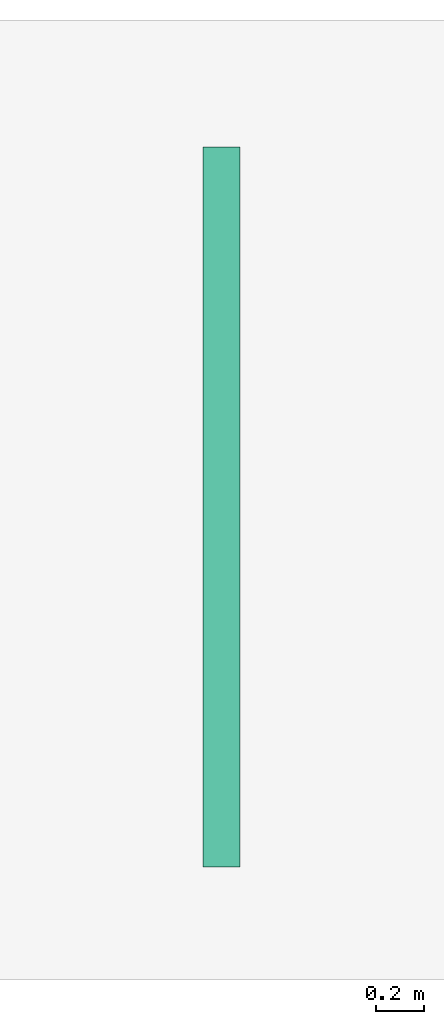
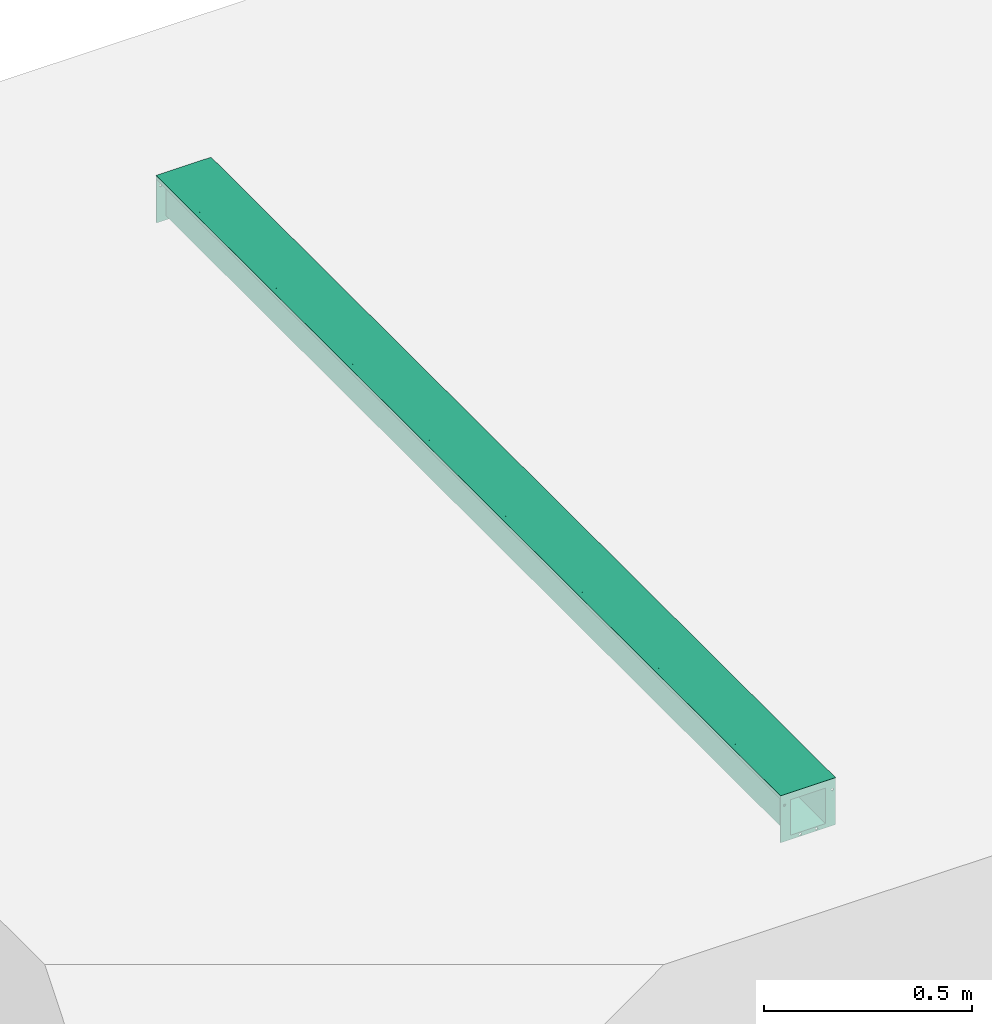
# One storey, part 2 of 2: 1 flow terminal.
"""IFC2X3 building model written with IfcOpenShell, lengths in millimetres."""

from ifc_helpers import new_model, entity, si_unit, converted_unit, direction, frame, frame_2d, origin, origin_2d_with_axis, place, context, subcontext, project, spatial, polyline, circle_curve, parameter, trimmed, segment, composite_curve, rectangle, outline, extrude, source, transform, mapped, material, material_list, element, save


model = new_model("IFC2X3")

# Units and contexts
model_context = context("Model", 3, precision=1e-06, world=origin(), true_north=direction((2.0, 6.12303176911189e-17, 1.0)))
context_of_model = context(None, 3, precision=1e-06, world=origin(), true_north=direction((2.0, 6.12303176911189e-17, 1.0)))
body_context = subcontext(model_context, "Body", "Model", "MODEL_VIEW")
ifc_project = project(units=[si_unit("LENGTHUNIT", "METRE", prefix="MILLI"), si_unit("AREAUNIT", "SQUARE_METRE", prefix="MILLI"), si_unit("VOLUMEUNIT", "CUBIC_METRE", prefix="MILLI"), converted_unit("PLANEANGLEUNIT", "DEGREE", entity("IfcRatioMeasure", 0.0174532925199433), si_unit("PLANEANGLEUNIT", "RADIAN"), dimensions=[0, 0, 0, 0, 0, 0, 0]), si_unit("TIMEUNIT", "SECOND")], contexts=[model_context, context_of_model])

# Site, building, storey
site_placement = place(None, origin())
site = spatial("IfcSite", under=ifc_project, at=site_placement, Name="Default", CompositionType="ELEMENT")
building_placement = place(site_placement, origin())
building = spatial("IfcBuilding", under=site, at=building_placement, CompositionType="ELEMENT")
storey_placement = place(building_placement, origin())
storey = spatial("IfcBuildingStorey", under=building, at=storey_placement, Name="Level 1", CompositionType="ELEMENT", Elevation=0.0)

# Flow terminal
ifc_material_1 = material(Name="Stainless Steel AISI 304")
ifc_material_2 = material(Name="Polystyrene, High Impact (F)")
ifc_material_list = material_list([ifc_material_1, ifc_material_2])
shared_shape = source(origin(), body_context, "Body", "SweptSolid", [
    extrude(rectangle(XDim=3000.0, YDim=124.999917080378, at=origin_2d_with_axis()), frame((4.14598109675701e-05, 1500.0, -21.0), z_axis=(0.0, 0.0, 1.0), x_axis=(0.0, 1.0, 0.0)), (0.0, 0.0, 1.0), 20.9999999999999),
    extrude(outline(polyline([(-76.5000276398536, -50.8000000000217), (-62.4999447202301, -50.8000000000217), (-62.4999447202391, -29.8000000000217), (-48.499944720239, -29.8000000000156), (-48.4999447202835, 74.1999999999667), (48.4999723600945, 74.2000000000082), (48.499972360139, -29.7999999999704), (62.4999723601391, -29.7999999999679), (62.4999723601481, -50.7999999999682), (76.4999723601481, -50.7999999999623), (76.4999723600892, 87.0), (-76.5000276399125, 87.0), (-76.5000276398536, -50.8000000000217)]), holes=[composite_curve([segment(trimmed(circle_curve(frame_2d((67.7349848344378, -18.9014274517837), x_axis=(1.0, 0.0)), 3.5), [parameter(0.0)], [parameter(180.0)], True, "PARAMETER"), False, "CONTINUOUS"), segment(trimmed(circle_curve(frame_2d((67.7349848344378, -18.9014274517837), x_axis=(1.0, 0.0)), 3.5), [parameter(180.0)], [parameter(360.0)], True, "PARAMETER"), False, "CONTINUOUS")], self_intersect=False), composite_curve([segment(trimmed(circle_curve(frame_2d((23.7349848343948, 80.9218749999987), x_axis=(1.0, 0.0)), 3.5), [parameter(0.0)], [parameter(180.0)], True, "PARAMETER"), False, "CONTINUOUS"), segment(trimmed(circle_curve(frame_2d((23.7349848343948, 80.9218749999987), x_axis=(1.0, 0.0)), 3.5), [parameter(180.0)], [parameter(360.0)], True, "PARAMETER"), False, "CONTINUOUS")], self_intersect=False), composite_curve([segment(trimmed(circle_curve(frame_2d((-21.2650151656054, 80.9218749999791), x_axis=(1.0, 0.0)), 3.5), [parameter(180.0)], [parameter(360.0)], True, "PARAMETER"), False, "CONTINUOUS"), segment(trimmed(circle_curve(frame_2d((-21.2650151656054, 80.9218749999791), x_axis=(1.0, 0.0)), 3.5), [parameter(360.0)], [parameter(180.0)], True, "PARAMETER"), False, "CONTINUOUS")], self_intersect=False), composite_curve([segment(trimmed(circle_curve(frame_2d((-65.2650151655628, -18.9014274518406), x_axis=(1.0, 0.0)), 3.5), [parameter(179.999999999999)], [parameter(360.0)], True, "PARAMETER"), False, "CONTINUOUS"), segment(trimmed(circle_curve(frame_2d((-65.2650151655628, -18.9014274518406), x_axis=(1.0, 0.0)), 3.5), [parameter(0.0)], [parameter(180.0)], True, "PARAMETER"), False, "CONTINUOUS")], self_intersect=False)]), frame((2.7639875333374e-05, 2997.0, -50.8000000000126), z_axis=(0.0, 1.0, 0.0), x_axis=(1.0, 0.0, 0.0)), (0.0, 0.0, 1.0), 2.99999999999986),
    extrude(outline(polyline([(-76.499958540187, -50.80000137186), (-62.4999585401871, -50.80000137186), (-62.4999585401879, -29.8000013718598), (-48.4999585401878, -29.8000013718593), (-48.499958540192, 74.1999986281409), (48.499958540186, 74.1999986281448), (48.4999585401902, -29.8000013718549), (62.4999585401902, -29.8000013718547), (62.4999585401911, -50.800001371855), (76.4999585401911, -50.8000013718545), (76.4999585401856, 87.0000068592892), (-76.4999585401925, 87.0000068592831), (-76.499958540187, -50.80000137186)]), holes=[composite_curve([segment(trimmed(circle_curve(frame_2d((67.7349710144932, -18.9014288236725), x_axis=(1.0, 0.0)), 3.5), [parameter(0.0)], [parameter(180.0)], True, "PARAMETER"), False, "CONTINUOUS"), segment(trimmed(circle_curve(frame_2d((67.7349710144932, -18.9014288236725), x_axis=(1.0, 0.0)), 3.5), [parameter(180.0)], [parameter(360.0)], True, "PARAMETER"), False, "CONTINUOUS")], self_intersect=False), composite_curve([segment(trimmed(circle_curve(frame_2d((23.7349710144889, 80.9218818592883), x_axis=(1.0, 0.0)), 3.5), [parameter(0.0)], [parameter(180.0)], True, "PARAMETER"), False, "CONTINUOUS"), segment(trimmed(circle_curve(frame_2d((23.7349710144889, 80.9218818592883), x_axis=(1.0, 0.0)), 3.5), [parameter(180.0)], [parameter(359.999999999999)], True, "PARAMETER"), False, "CONTINUOUS")], self_intersect=False), composite_curve([segment(trimmed(circle_curve(frame_2d((-21.2650289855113, 80.9218818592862), x_axis=(1.0, 0.0)), 3.5), [parameter(180.0)], [parameter(360.0)], True, "PARAMETER"), False, "CONTINUOUS"), segment(trimmed(circle_curve(frame_2d((-21.2650289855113, 80.9218818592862), x_axis=(1.0, 0.0)), 3.5), [parameter(360.0)], [parameter(180.0)], True, "PARAMETER"), False, "CONTINUOUS")], self_intersect=False), composite_curve([segment(trimmed(circle_curve(frame_2d((-65.2650289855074, -18.9014288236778), x_axis=(1.0, 0.0)), 3.5), [parameter(180.0)], [parameter(0.0)], True, "PARAMETER"), False, "CONTINUOUS"), segment(trimmed(circle_curve(frame_2d((-65.2650289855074, -18.9014288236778), x_axis=(1.0, 0.0)), 3.5), [parameter(0.0)], [parameter(180.0)], True, "PARAMETER"), False, "CONTINUOUS")], self_intersect=False)]), frame((4.14598109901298e-05, 0.0, -50.8000013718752), z_axis=(0.0, 1.0, 0.0), x_axis=(1.0, 0.0, 0.0)), (0.0, 0.0, 1.0), 3.0),
    extrude(outline(polyline([(-30.1243423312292, -62.4999585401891), (-30.1243423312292, -76.499958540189), (-20.1243423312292, -76.499958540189), (-20.1243423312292, -74.999958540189), (-28.6243423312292, -74.999958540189), (-28.6243423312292, -63.9999585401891), (-7.62434233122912, -63.9999585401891), (-7.6243423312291, -49.999958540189), (96.3717116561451, -49.999958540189), (96.3717116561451, 49.999958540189), (-7.62434233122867, 49.999958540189), (-7.62434233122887, 63.999958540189), (-28.624342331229, 63.9999585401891), (-28.6243423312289, 74.9999585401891), (-20.1243423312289, 74.9999585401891), (-20.1243423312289, 76.4999585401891), (-30.1243423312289, 76.4999585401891), (-30.124342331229, 62.4999585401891), (-9.12434233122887, 62.499958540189), (-9.12434233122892, 48.499958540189), (94.8717116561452, 48.499958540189), (94.8717116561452, -48.499958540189), (-9.12434233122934, -48.499958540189), (-9.12434233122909, -62.4999585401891), (-30.1243423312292, -62.4999585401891)])), frame((4.14598110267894e-05, 3.0, -30.1282883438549), z_axis=(0.0, -1.0, 0.0), x_axis=(0.0, 0.0, -1.0)), (0.0, 0.0, -1.0), 2994.0),
    extrude(rectangle(XDim=2997.0, YDim=11.0, at=frame_2d((2.27373675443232e-13, 0.0), x_axis=(1.0, 0.0))), frame((69.5000000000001, 1501.5, -10.0), z_axis=(0.0, 0.0, 1.0), x_axis=(0.0, 1.0, 0.0)), (0.0, 0.0, 1.0), 8.50000000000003),
    extrude(rectangle(XDim=2997.0, YDim=10.9999999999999, at=frame_2d((2.27373675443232e-13, 0.0), x_axis=(1.0, 0.0))), frame((-69.499917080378, 1501.5, -10.0), z_axis=(0.0, 0.0, 1.0), x_axis=(0.0, 1.0, 0.0)), (0.0, 0.0, 1.0), 8.50000000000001),
])
flow_terminal_placement = place(storey_placement, frame((-82.2883701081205, -1527.95050146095, 0.0)))
element("IfcFlowTerminal", 1, at=flow_terminal_placement, inside=storey, material=ifc_material_list, Name="ACO BD Modular 125 Level Invert Straight Channels:105148 - Straight Channel - 3000mm LG - Invert Depth 125mm:105148 - Straight Channel - 3000mm LG - Invert Depth 125mm", ObjectType="105148 - Straight Channel - 3000mm LG - Invert Depth 125mm", context=body_context, shape_type="MappedRepresentation", body=[
    mapped(shared_shape, transform((0.0, 0.0, 0.0), scale=1.0)),
])

save(model, "model.ifc")
